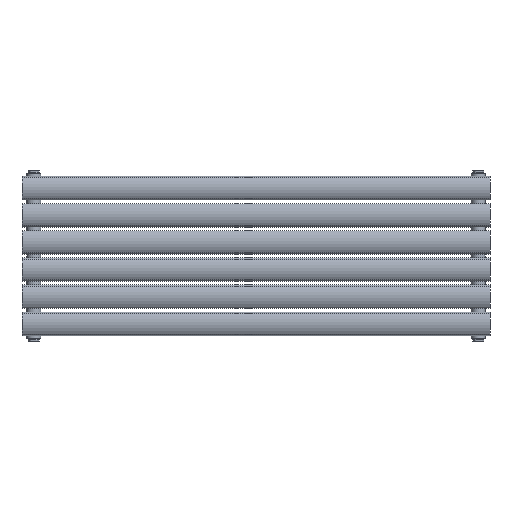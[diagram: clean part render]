
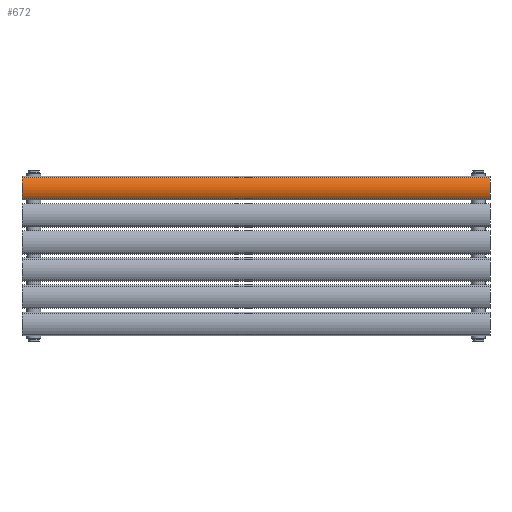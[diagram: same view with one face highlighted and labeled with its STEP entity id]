
A CAD part, top view. The second image highlights one B-rep face of the part: STEP entity #672.
In plain terms, the highlighted cylindrical face has radius 39.5 mm (diameter 79 mm), a partial arc.
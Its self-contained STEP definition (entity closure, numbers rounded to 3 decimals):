
#99=LINE('',#1514,#127);
#100=LINE('',#1517,#128);
#127=VECTOR('',#874,10.);
#128=VECTOR('',#877,10.);
#196=CIRCLE('',#756,39.5);
#199=CIRCLE('',#760,39.5);
#258=FACE_OUTER_BOUND('',#315,.T.);
#315=EDGE_LOOP('',(#544,#545,#546,#547));
#385=VERTEX_POINT('',#1505);
#386=VERTEX_POINT('',#1507);
#388=VERTEX_POINT('',#1513);
#389=VERTEX_POINT('',#1515);
#444=EDGE_CURVE('',#385,#386,#196,.T.);
#447=EDGE_CURVE('',#388,#385,#99,.T.);
#448=EDGE_CURVE('',#389,#388,#199,.T.);
#449=EDGE_CURVE('',#386,#389,#100,.T.);
#544=ORIENTED_EDGE('',*,*,#447,.F.);
#545=ORIENTED_EDGE('',*,*,#448,.F.);
#546=ORIENTED_EDGE('',*,*,#449,.F.);
#547=ORIENTED_EDGE('',*,*,#444,.F.);
#654=CYLINDRICAL_SURFACE('',#759,39.5);
#672=ADVANCED_FACE('',(#258),#654,.T.);
#756=AXIS2_PLACEMENT_3D('',#1508,#866,#867);
#759=AXIS2_PLACEMENT_3D('',#1512,#872,#873);
#760=AXIS2_PLACEMENT_3D('',#1516,#875,#876);
#866=DIRECTION('center_axis',(0.,0.,-1.));
#867=DIRECTION('ref_axis',(-0.552,-0.834,0.));
#872=DIRECTION('center_axis',(0.,0.,1.));
#873=DIRECTION('ref_axis',(-0.552,-0.834,0.));
#874=DIRECTION('',(0.,0.,-1.));
#875=DIRECTION('center_axis',(0.,0.,1.));
#876=DIRECTION('ref_axis',(-0.552,-0.834,0.));
#877=DIRECTION('',(0.,0.,1.));
#1505=CARTESIAN_POINT('',(21.816,-18.429,-500.));
#1507=CARTESIAN_POINT('',(-21.816,-18.429,-500.));
#1508=CARTESIAN_POINT('Origin',(0.,14.5,-500.));
#1512=CARTESIAN_POINT('Origin',(0.,14.5,0.));
#1513=CARTESIAN_POINT('',(21.816,-18.429,500.));
#1514=CARTESIAN_POINT('',(21.816,-18.429,0.));
#1515=CARTESIAN_POINT('',(-21.816,-18.429,500.));
#1516=CARTESIAN_POINT('Origin',(0.,14.5,500.));
#1517=CARTESIAN_POINT('',(-21.816,-18.429,0.));
